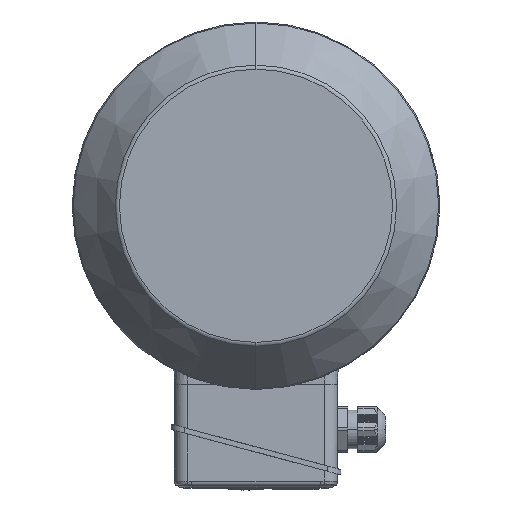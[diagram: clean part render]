
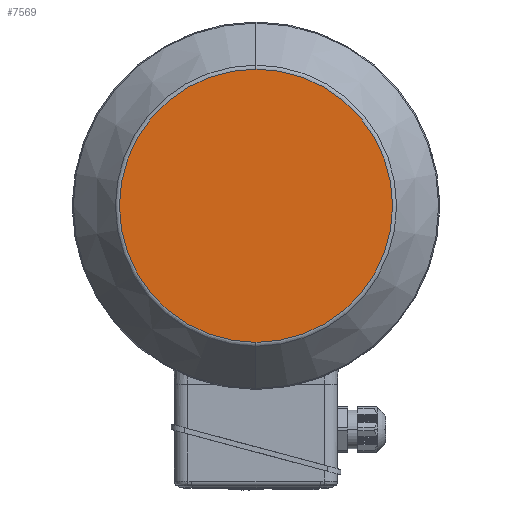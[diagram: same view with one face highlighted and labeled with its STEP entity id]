
A CAD part, left-side view. The second image highlights one B-rep face of the part: STEP entity #7569.
In plain terms, the highlighted planar face has unit normal (-1, 0, 0).
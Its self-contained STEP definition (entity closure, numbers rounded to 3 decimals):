
#601 = DIRECTION ( 'NONE',  ( -1., 0., 0. ) ) ;
#740 = DIRECTION ( 'NONE',  ( 0., 1., 0. ) ) ;
#2373 = DIRECTION ( 'NONE',  ( 1., 0., 0. ) ) ;
#5292 = DIRECTION ( 'NONE',  ( 0., 0., -1. ) ) ;
#5725 = ORIENTED_EDGE ( 'NONE', *, *, #28201, .F. ) ;
#7569 = ADVANCED_FACE ( 'NONE', ( #17297 ), #27251, .T. ) ;
#12669 = AXIS2_PLACEMENT_3D ( 'NONE', #14208, #2373, #5292 ) ;
#14208 = CARTESIAN_POINT ( 'NONE',  ( -198.75, 0., 0. ) ) ;
#14225 = AXIS2_PLACEMENT_3D ( 'NONE', #33950, #27901, #21957 ) ;
#14334 = VERTEX_POINT ( 'NONE', #28107 ) ;
#17297 = FACE_OUTER_BOUND ( 'NONE', #24845, .T. ) ;
#21957 = DIRECTION ( 'NONE',  ( 0., 0., -1. ) ) ;
#22703 = CIRCLE ( 'NONE', #12669, 81.227 ) ;
#22811 = CIRCLE ( 'NONE', #14225, 81.227 ) ;
#22934 = VERTEX_POINT ( 'NONE', #38247 ) ;
#22973 = ORIENTED_EDGE ( 'NONE', *, *, #37049, .F. ) ;
#24845 = EDGE_LOOP ( 'NONE', ( #22973, #5725 ) ) ;
#27251 = PLANE ( 'NONE',  #36447 ) ;
#27888 = CARTESIAN_POINT ( 'NONE',  ( -198.75, 0., -81.227 ) ) ;
#27901 = DIRECTION ( 'NONE',  ( 1., 0., 0. ) ) ;
#28107 = CARTESIAN_POINT ( 'NONE',  ( -198.75, 0., 81.227 ) ) ;
#28201 = EDGE_CURVE ( 'NONE', #14334, #22934, #22811, .T. ) ;
#33950 = CARTESIAN_POINT ( 'NONE',  ( -198.75, 0., 0. ) ) ;
#36447 = AXIS2_PLACEMENT_3D ( 'NONE', #27888, #601, #740 ) ;
#37049 = EDGE_CURVE ( 'NONE', #22934, #14334, #22703, .T. ) ;
#38247 = CARTESIAN_POINT ( 'NONE',  ( -198.75, 0., -81.227 ) ) ;
